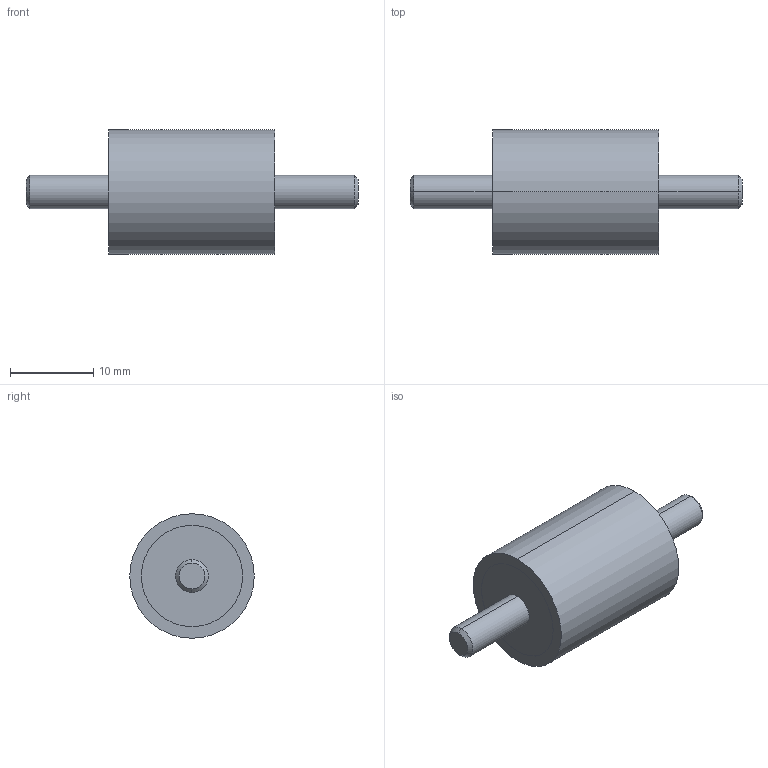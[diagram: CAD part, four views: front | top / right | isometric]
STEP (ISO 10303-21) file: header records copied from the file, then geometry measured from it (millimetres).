
FILE_DESCRIPTION (( 'STEP AP214' ), '1' );
FILE_NAME ('351-15-20-M4-SS-70.step', '2025-07-23T09:44:40', ( '' ), ( '' ), 'SwSTEP 2.0', 'SolidWorks 2022', '' );
FILE_SCHEMA (( 'AUTOMOTIVE_DESIGN' ));
Length unit declared in the file: millimetre
Products named in the file (1): 351-15-20-M4-SS-70
Bounding box: 40 x 15 x 15 mm (x, y, z)
Volume: 3781.2 mm3; surface area: 1541.1 mm2
Topology: 1 solids, 1 shells, 20 faces, 38 edges, 24 vertices
Faces by surface type: cylinder 10, plane 6, cone 4
Entity records: 636 total; most frequent: DIRECTION 104, CARTESIAN_POINT 83, ORIENTED_EDGE 76, AXIS2_PLACEMENT_3D 45, EDGE_CURVE 38, VERTEX_POINT 24, CIRCLE 24, EDGE_LOOP 24
